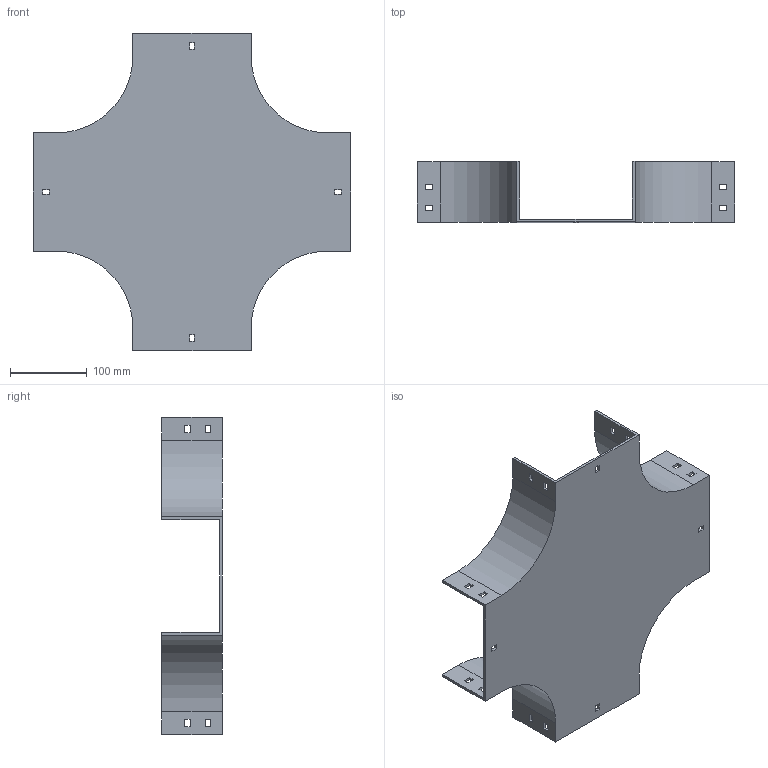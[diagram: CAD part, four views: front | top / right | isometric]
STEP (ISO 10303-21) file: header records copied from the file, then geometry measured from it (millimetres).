
FILE_DESCRIPTION (( 'STEP AP214' ), '1' );
FILE_NAME ('17F1C150.step', '2025-02-21T13:06:09', ( '' ), ( '' ), 'SwSTEP 2.0', 'SolidWorks 2023', '' );
FILE_SCHEMA (( 'AUTOMOTIVE_DESIGN' ));
Length unit declared in the file: millimetre
Products named in the file (1): 17F1C150
Bounding box: 414 x 79 x 414 mm (x, y, z)
Volume: 620950 mm3; surface area: 364475.7 mm2
Topology: 1 solids, 1 shells, 114 faces, 336 edges, 224 vertices
Faces by surface type: plane 106, cylinder 8
Entity records: 3839 total; most frequent: CARTESIAN_POINT 675, ORIENTED_EDGE 672, DIRECTION 582, EDGE_CURVE 336, LINE 320, VECTOR 320, VERTEX_POINT 224, EDGE_LOOP 154
